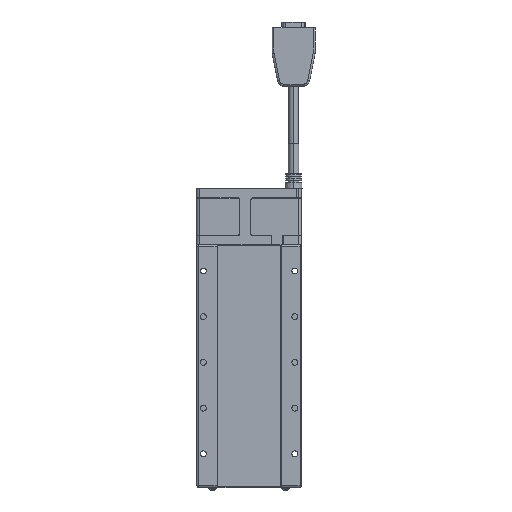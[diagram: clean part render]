
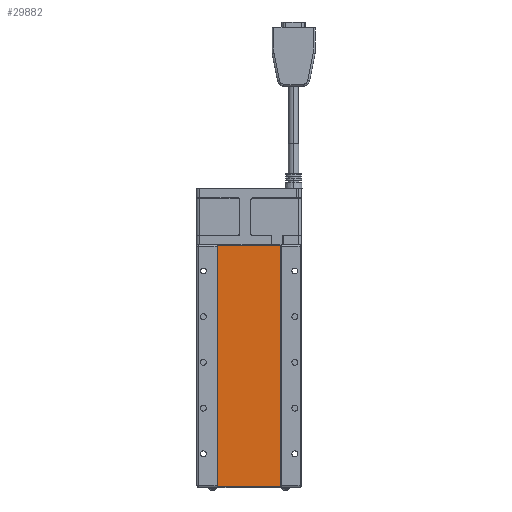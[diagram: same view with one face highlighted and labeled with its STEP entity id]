
A CAD part, front view. The second image highlights one B-rep face of the part: STEP entity #29882.
In plain terms, the highlighted planar face has unit normal (0, -1, 0).
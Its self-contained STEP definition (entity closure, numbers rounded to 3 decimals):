
#1028 = AXIS2_PLACEMENT_3D ( 'NONE', #119298, #13911, #66241 ) ;
#6827 = CARTESIAN_POINT ( 'NONE',  ( 24.3, 0.5, 0.2 ) ) ;
#9995 = VERTEX_POINT ( 'NONE', #120338 ) ;
#13911 = DIRECTION ( 'NONE',  ( 0., 1., 0. ) ) ;
#15959 = EDGE_CURVE ( 'NONE', #9995, #29858, #48459, .T. ) ;
#21828 = VECTOR ( 'NONE', #29870, 1000. ) ;
#21835 = EDGE_LOOP ( 'NONE', ( #90262, #25408, #53103, #122395 ) ) ;
#23755 = VECTOR ( 'NONE', #31939, 1000. ) ;
#25232 = VERTEX_POINT ( 'NONE', #87617 ) ;
#25408 = ORIENTED_EDGE ( 'NONE', *, *, #85914, .T. ) ;
#29858 = VERTEX_POINT ( 'NONE', #36345 ) ;
#29870 = DIRECTION ( 'NONE',  ( 0., 0., -1. ) ) ;
#29882 = ADVANCED_FACE ( 'NONE', ( #87990 ), #66902, .F. ) ;
#31939 = DIRECTION ( 'NONE',  ( 1., 0., 0. ) ) ;
#36345 = CARTESIAN_POINT ( 'NONE',  ( -24.3, 0.5, 184.8 ) ) ;
#43525 = LINE ( 'NONE', #104716, #23755 ) ;
#47119 = DIRECTION ( 'NONE',  ( -1., 0., 0. ) ) ;
#48459 = LINE ( 'NONE', #58633, #97668 ) ;
#49509 = EDGE_CURVE ( 'NONE', #29858, #25232, #131918, .T. ) ;
#51948 = DIRECTION ( 'NONE',  ( 0., 0., 1. ) ) ;
#53103 = ORIENTED_EDGE ( 'NONE', *, *, #104294, .T. ) ;
#56861 = VECTOR ( 'NONE', #51948, 1000. ) ;
#58633 = CARTESIAN_POINT ( 'NONE',  ( -24.3, 0.5, 184.8 ) ) ;
#59149 = CARTESIAN_POINT ( 'NONE',  ( -24.3, 0.5, 0.2 ) ) ;
#66241 = DIRECTION ( 'NONE',  ( -1., 0., 0. ) ) ;
#66902 = PLANE ( 'NONE',  #1028 ) ;
#85914 = EDGE_CURVE ( 'NONE', #25232, #112631, #43525, .T. ) ;
#87617 = CARTESIAN_POINT ( 'NONE',  ( -24.3, 0.5, 0.2 ) ) ;
#87990 = FACE_OUTER_BOUND ( 'NONE', #21835, .T. ) ;
#90262 = ORIENTED_EDGE ( 'NONE', *, *, #49509, .T. ) ;
#97668 = VECTOR ( 'NONE', #47119, 1000. ) ;
#104294 = EDGE_CURVE ( 'NONE', #112631, #9995, #124015, .T. ) ;
#104716 = CARTESIAN_POINT ( 'NONE',  ( -24.3, 0.5, 0.2 ) ) ;
#112631 = VERTEX_POINT ( 'NONE', #6827 ) ;
#113160 = CARTESIAN_POINT ( 'NONE',  ( 24.3, 0.5, 0.2 ) ) ;
#119298 = CARTESIAN_POINT ( 'NONE',  ( -24.3, 0.5, 184.8 ) ) ;
#120338 = CARTESIAN_POINT ( 'NONE',  ( 24.3, 0.5, 184.8 ) ) ;
#122395 = ORIENTED_EDGE ( 'NONE', *, *, #15959, .T. ) ;
#124015 = LINE ( 'NONE', #113160, #56861 ) ;
#131918 = LINE ( 'NONE', #59149, #21828 ) ;
